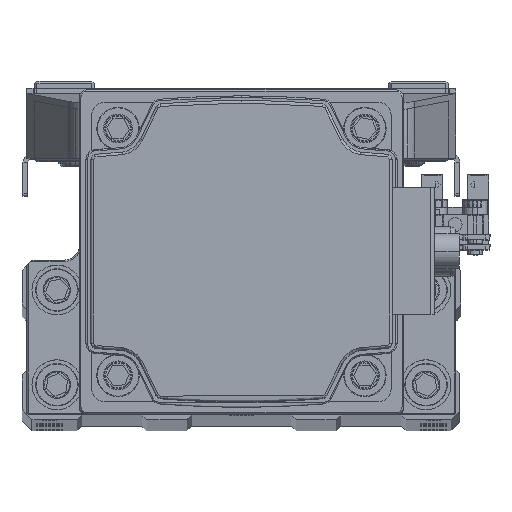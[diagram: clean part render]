
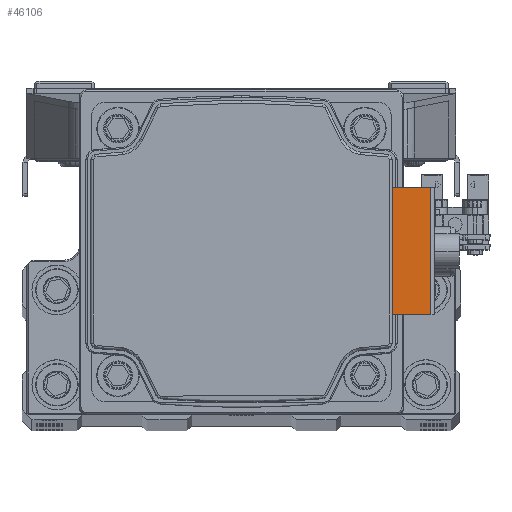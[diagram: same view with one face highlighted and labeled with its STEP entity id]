
A CAD part, top view. The second image highlights one B-rep face of the part: STEP entity #46106.
In plain terms, the highlighted planar face has unit normal (0, 0, 1) as drawn and (0, 0, -1) by its records, which use the part's own axes.
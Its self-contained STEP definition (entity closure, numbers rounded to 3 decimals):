
#363 = ORIENTED_EDGE ( 'NONE', *, *, #8491, .T. ) ;
#557 = CARTESIAN_POINT ( 'NONE',  ( -12.75, 30.2, -88.696 ) ) ;
#1120 = CARTESIAN_POINT ( 'NONE',  ( 0., 37.9, -88.696 ) ) ;
#5252 = EDGE_CURVE ( 'NONE', #23170, #20995, #17543, .T. ) ;
#7439 = VERTEX_POINT ( 'NONE', #38337 ) ;
#7652 = EDGE_CURVE ( 'NONE', #23170, #7439, #7996, .T. ) ;
#7996 = LINE ( 'NONE', #23948, #45889 ) ;
#8055 = LINE ( 'NONE', #24002, #32883 ) ;
#8491 = EDGE_CURVE ( 'NONE', #7439, #49650, #8055, .T. ) ;
#11724 = ORIENTED_EDGE ( 'NONE', *, *, #12744, .F. ) ;
#12744 = EDGE_CURVE ( 'NONE', #20995, #49650, #34295, .T. ) ;
#14422 = DIRECTION ( 'NONE',  ( 0., 1., 0. ) ) ;
#14951 = VECTOR ( 'NONE', #14422, 1000. ) ;
#17077 = DIRECTION ( 'NONE',  ( 0., 0., -1. ) ) ;
#17543 = LINE ( 'NONE', #33500, #22522 ) ;
#20029 = CARTESIAN_POINT ( 'NONE',  ( 12.75, 30.2, -88.696 ) ) ;
#20989 = FACE_OUTER_BOUND ( 'NONE', #21081, .T. ) ;
#20995 = VERTEX_POINT ( 'NONE', #20029 ) ;
#21081 = EDGE_LOOP ( 'NONE', ( #51076, #363, #11724, #28174 ) ) ;
#22522 = VECTOR ( 'NONE', #49469, 1000. ) ;
#23170 = VERTEX_POINT ( 'NONE', #557 ) ;
#23948 = CARTESIAN_POINT ( 'NONE',  ( -12.75, 37.9, -88.696 ) ) ;
#24002 = CARTESIAN_POINT ( 'NONE',  ( 0., 37.9, -88.696 ) ) ;
#28174 = ORIENTED_EDGE ( 'NONE', *, *, #5252, .F. ) ;
#32883 = VECTOR ( 'NONE', #39952, 1000. ) ;
#33037 = DIRECTION ( 'NONE',  ( -1., 0., 0. ) ) ;
#33500 = CARTESIAN_POINT ( 'NONE',  ( 18.438, 30.2, -88.696 ) ) ;
#33725 = AXIS2_PLACEMENT_3D ( 'NONE', #1120, #17077, #33037 ) ;
#34295 = LINE ( 'NONE', #50261, #14951 ) ;
#35723 = CARTESIAN_POINT ( 'NONE',  ( 12.75, 37.9, -88.696 ) ) ;
#36941 = PLANE ( 'NONE',  #33725 ) ;
#38337 = CARTESIAN_POINT ( 'NONE',  ( -12.75, 37.9, -88.696 ) ) ;
#39896 = DIRECTION ( 'NONE',  ( 0., 1., 0. ) ) ;
#39952 = DIRECTION ( 'NONE',  ( 1., 0., 0. ) ) ;
#45889 = VECTOR ( 'NONE', #39896, 1000. ) ;
#46106 = ADVANCED_FACE ( 'NONE', ( #20989 ), #36941, .T. ) ;
#49469 = DIRECTION ( 'NONE',  ( 1., 0., 0. ) ) ;
#49650 = VERTEX_POINT ( 'NONE', #35723 ) ;
#50261 = CARTESIAN_POINT ( 'NONE',  ( 12.75, 33.991, -88.696 ) ) ;
#51076 = ORIENTED_EDGE ( 'NONE', *, *, #7652, .T. ) ;
